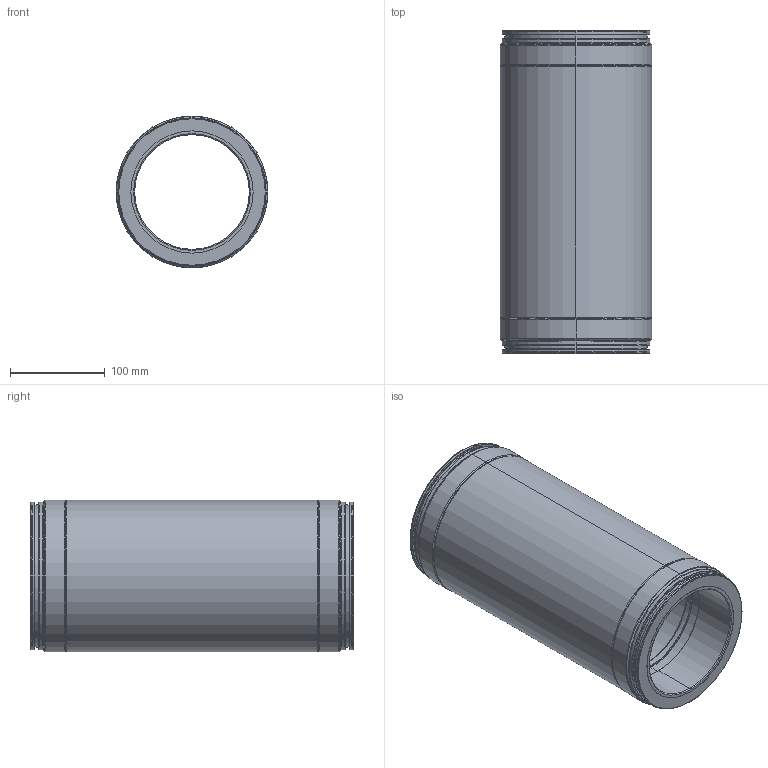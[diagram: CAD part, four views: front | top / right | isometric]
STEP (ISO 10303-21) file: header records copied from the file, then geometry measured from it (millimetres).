
FILE_DESCRIPTION(('CATIA V5 STEP Exchange','CAx-IF Rec.Pracs.--- Composite Materials ---3.4---2017-06-13'),'2;1');
FILE_NAME('C:\Users\PM610867\AppData\Local\ST-WORK_R32_PROD\Liasse-PDF\IEM_PEPSI_CEG_DEF_K_1229_204-TUBE_CENTRAL_EQUIPE-A.stp','2025-02-14T10:15:26+00:00',('none'),('none'),'CATIA Version 5-6 Release 2022 SP2','CATIA V5 STEP AP203 v2','none');
FILE_SCHEMA(('CONFIG_CONTROL_DESIGN'));
Length unit declared in the file: millimetre
Products named in the file (1): IEM PEPSI CEG DEF K 1229 204
Assembly tree (3 placements, depth 2):
  IEM PEPSI CEG DEF K 1229 204
    #57
    #402  x2
Bounding box: 160 x 340.6 x 160 mm (x, y, z)
Volume: 2256850.3 mm3; surface area: 405478.7 mm2
Topology: 3 solids, 3 shells, 158 faces, 316 edges, 176 vertices
Faces by surface type: torus 88, cylinder 40, plane 18, cone 12
Entity records: 2015 total; most frequent: ORIENTED_EDGE 344, CARTESIAN_POINT 321, DIRECTION 278, AXIS2_PLACEMENT_3D 197, EDGE_CURVE 172, CIRCLE 144, EDGE_LOOP 96, VERTEX_POINT 96
